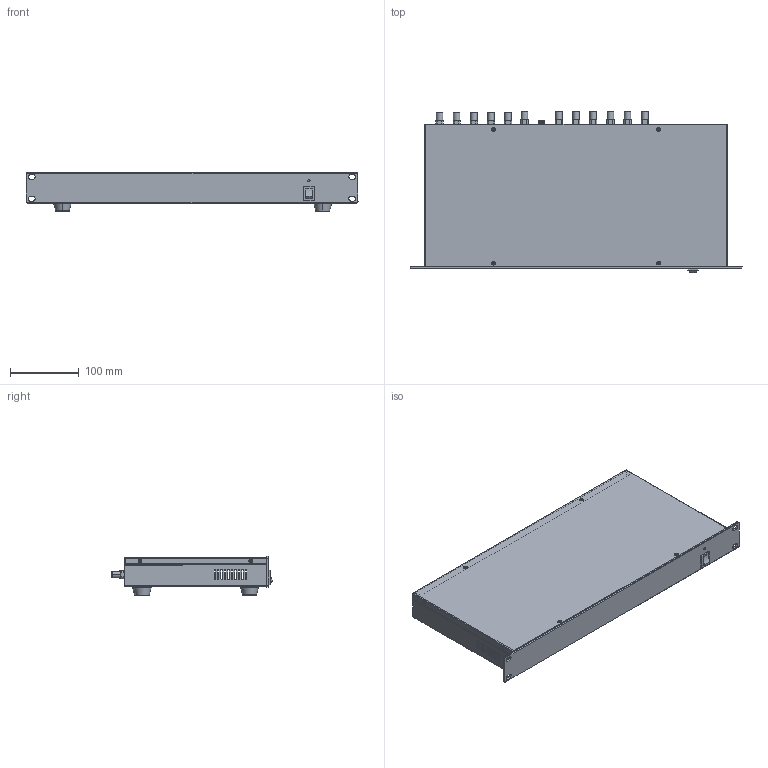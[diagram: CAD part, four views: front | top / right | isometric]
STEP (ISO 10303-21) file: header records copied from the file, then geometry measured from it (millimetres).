
FILE_DESCRIPTION(/* description */ (''),/* implementation_level */ '2;1');
FILE_NAME(/* name */ 'T-59FP~2',/* time_stamp */ '2025-01-07T17:11:17+08:00',/* author */ (''),/* organization */ (''),/* preprocessor_version */ 'ST-DEVELOPER v16.5',/* originating_system */ '',/* authorisation */ '');
FILE_SCHEMA (('CONFIG_CONTROL_DESIGN'));
Products named in the file (1): Document
Bounding box: 484 x 234.94 x 57.28 mm (x, y, z)
Volume: 137542.1 mm3; surface area: 308755.4 mm2
Topology: 67 solids, 69 shells, 2462 faces, 6265 edges, 3889 vertices
Faces by surface type: bspline 2286, cylinder 142, plane 34
Entity records: 164594 total; most frequent: CARTESIAN_POINT 128659, ORIENTED_EDGE 12053, EDGE_CURVE 6149, B_SPLINE_CURVE_WITH_KNOTS 4639, VERTEX_POINT 3889, EDGE_LOOP 2618, ADVANCED_FACE 2462, FACE_OUTER_BOUND 2462
